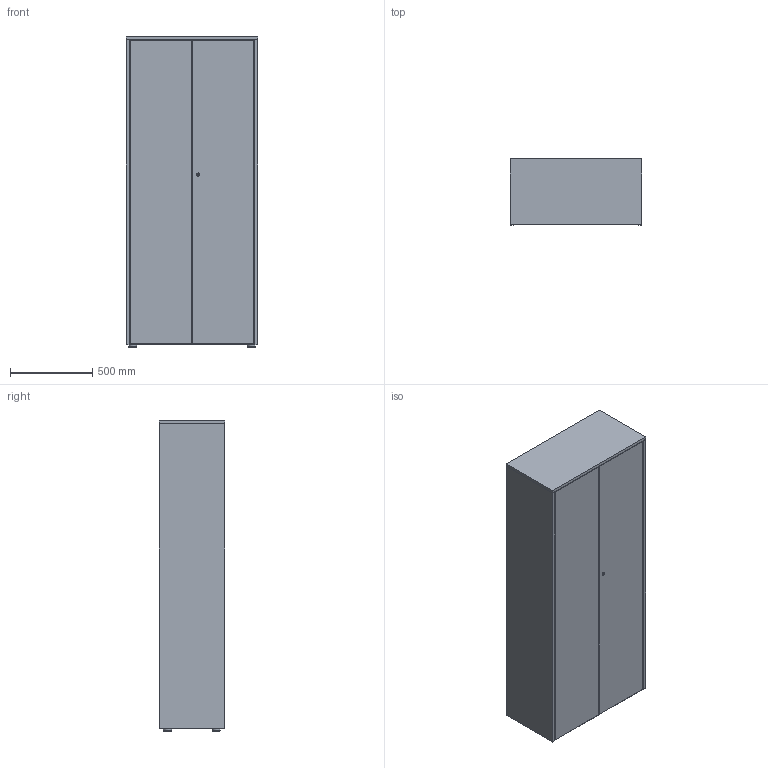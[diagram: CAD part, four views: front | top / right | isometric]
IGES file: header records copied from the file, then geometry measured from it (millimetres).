
Start section: SolidWorks IGES file using analytic representation for surfaces
Global section: file name: C:\Documents and Settings\mbiesiadecki\Moje dokumenty\MEBLE\SYSTEMY BIUROWE\6 VANCOUVER\VANCOUVER - Piktogramy\Vri-pikt-NT\Vr-58bdr-t02.IGS; native system: SolidWorks 2011; preprocessor: SolidWorks 2011; author: mbiesiadecki; date: 110923.162130; units: millimetre
Bounding box: 801 x 400.2 x 1887 mm (x, y, z)
Volume: 85220055.5 mm3; surface area: 10006856.6 mm2
Topology: 3 solids, 3 shells, 108 faces, 252 edges, 158 vertices
Faces by surface type: plane 64, revolution 44
